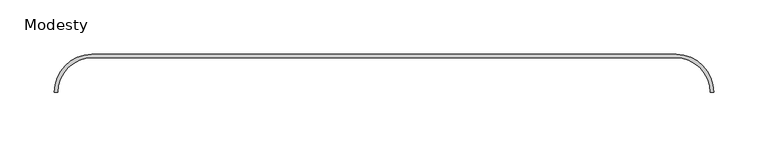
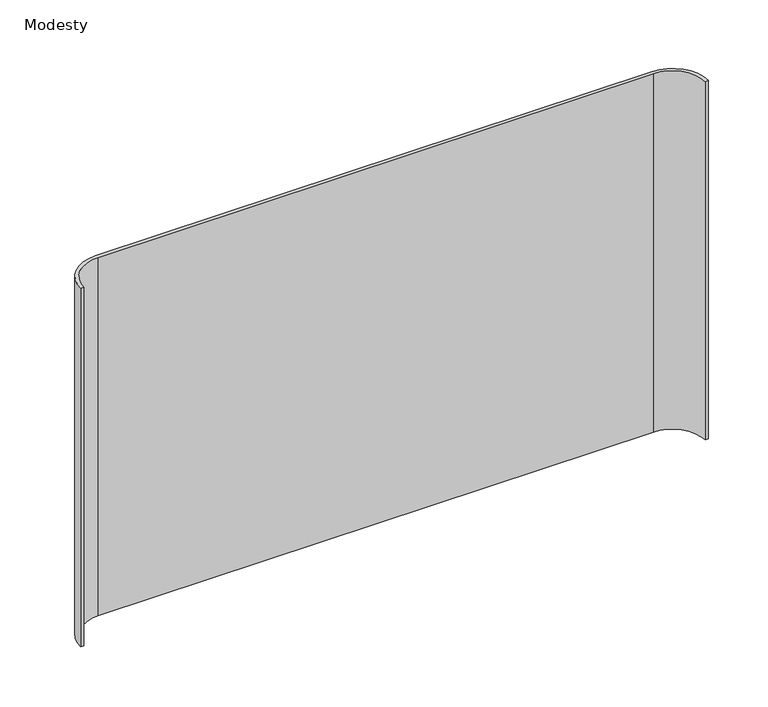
"""IFC4 building model written with IfcOpenShell, lengths in millimetres: furniture geometry, SmithSystem_AM_SpaceDivision_Panel_Silhouette_SitStand_ModestyPrivacy : Modesty."""

from ifc_helpers import new_model, si_unit, point, frame, frame_2d, origin, place, context, project, spatial, polyline, circle_curve, trimmed, segment, composite_curve, outline, extrude, source, transform, mapped, element, save


def modesty_4cd551a6(model_context):
    return source(origin(), model_context, "Body", "SweptSolid", [
        extrude(outline(composite_curve([segment(polyline([(267.7791941, 477.4758495), (-268.3443777, 477.4758495)]), True, "CONTINUOUS"), segment(trimmed(circle_curve(frame_2d((-268.3443777, 445.7258495)), 31.75), [point((-268.3443777, 477.4758495))], [point((-300.0943777, 445.7258495))], True, "CARTESIAN"), True, "CONTINUOUS"), segment(polyline([(-300.0943777, 445.7258495), (-303.1423777, 445.7258495)]), True, "CONTINUOUS"), segment(trimmed(circle_curve(frame_2d((-268.7958059, 446.1743496)), 34.3494999), [point((-303.1423777, 445.7258495))], [point((-268.7958059, 480.5238495))], False, "CARTESIAN"), True, "CONTINUOUS"), segment(polyline([(-268.7958059, 480.5238495), (268.2306223, 480.5238495)]), True, "CONTINUOUS"), segment(trimmed(circle_curve(frame_2d((268.2306223, 446.1743496)), 34.3494999), [point((268.2306223, 480.5238495))], [point((302.5771941, 445.7258495))], False, "CARTESIAN"), True, "CONTINUOUS"), segment(polyline([(302.5771941, 445.7258495), (299.5291941, 445.7258495)]), True, "CONTINUOUS"), segment(trimmed(circle_curve(frame_2d((267.7791941, 445.7258495)), 31.75), [point((299.5291941, 445.7258495))], [point((267.7791941, 477.4758495))], True, "CARTESIAN"), True, "CONTINUOUS")], self_intersect=False)), frame((0.0, 0.0, 681.99), z_axis=(0.0, 0.0, 1.0), x_axis=(1.0, 0.0, 0.0)), (0.0, 0.0, 1.0), 365.76),
    ])


if __name__ == "__main__":
    model = new_model("IFC4")
    model_context = context("Model", 3, world=origin())
    ifc_project = project(units=[si_unit("LENGTHUNIT", "METRE", prefix="MILLI")], contexts=[model_context])
    site = spatial("IfcSite", under=ifc_project)
    building = spatial("IfcBuilding", under=site)
    placement = place(None, origin())
    modesty_shape = modesty_4cd551a6(model_context)
    element("IfcFurniture", 1, ObjectType="SmithSystem_AM_SpaceDivision_Panel_Silhouette_SitStand_ModestyPrivacy : Modesty", at=placement, inside=building, context=model_context, shape_type="MappedRepresentation", body=[
        mapped(modesty_shape, transform((0.0, 0.0, 0.0), x_axis=(1.0, 0.0, 0.0), y_axis=(0.0, 1.0, 0.0), z_axis=(0.0, 0.0, 1.0))),
    ])
    save(model, "model.ifc")
